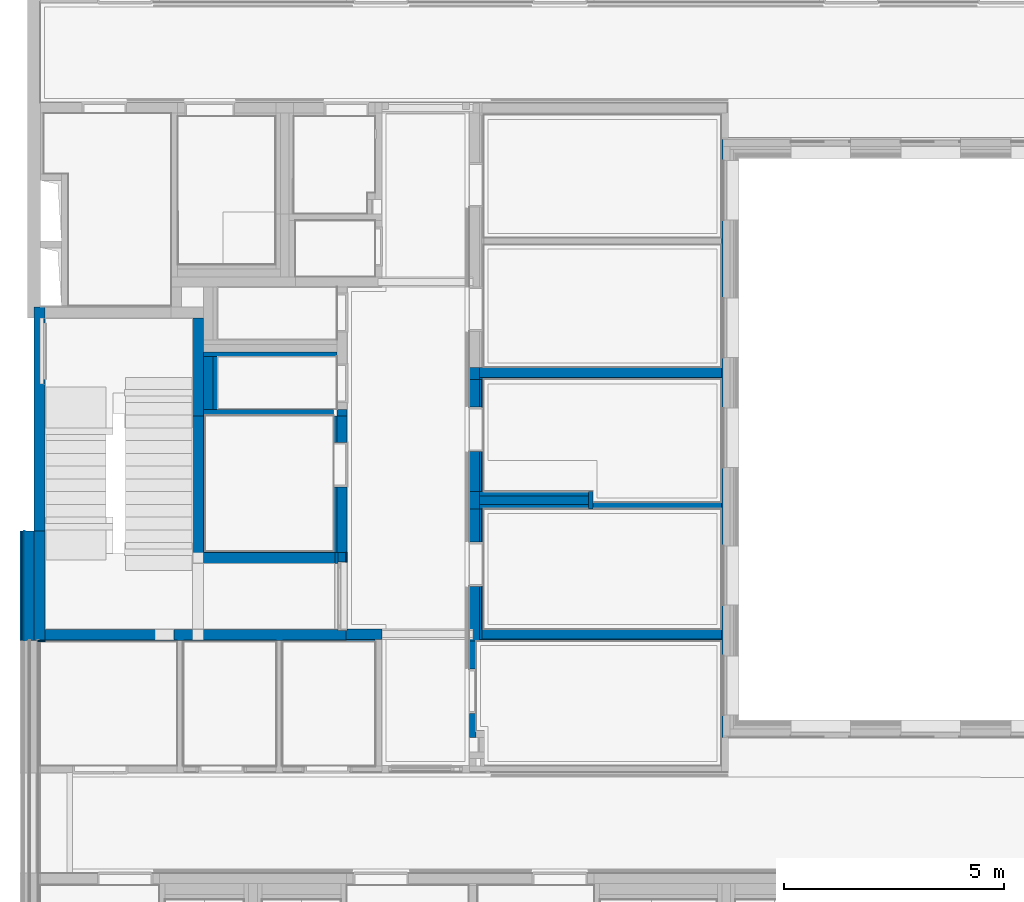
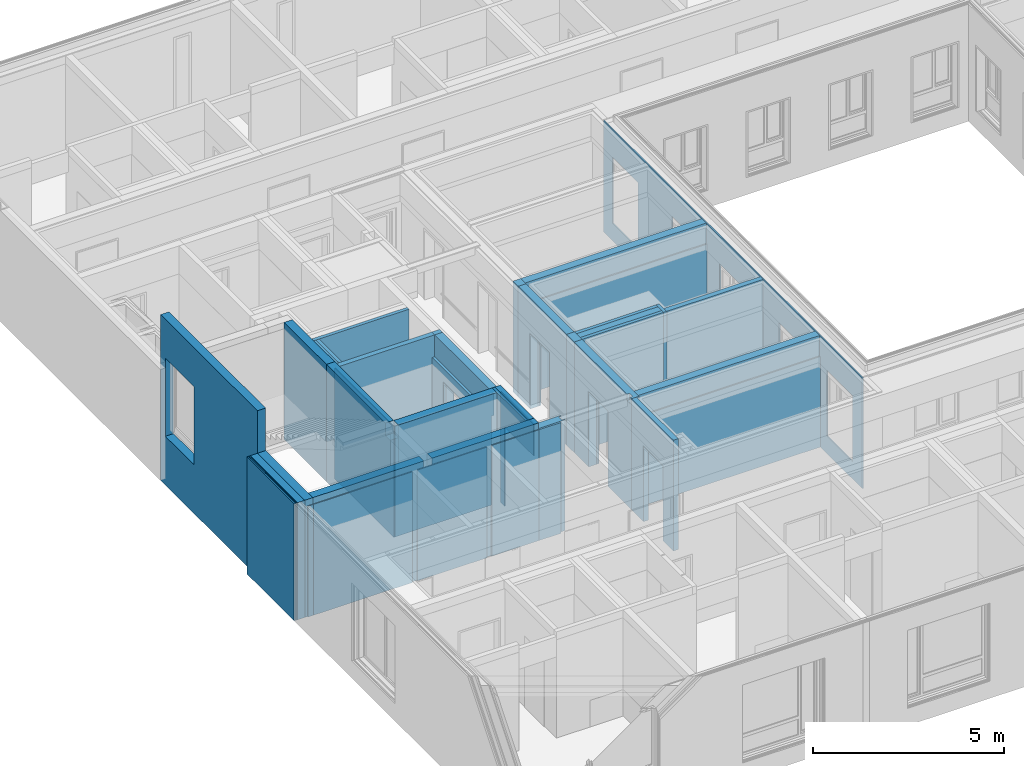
# One storey, part 14 of 222: 46 walls, 19 openings.
"""IFC4 building model written with IfcOpenShell, lengths in metres."""

import ifcopenshell
import ifcopenshell.guid

model = None  # the IFC model being written
_history = None  # IfcOwnerHistory: only IFC2X3 demands one
_inside = {}  # id of a spatial element -> (the spatial element, [elements in it])
_under = {}  # id of a project, library or spatial element -> (it, [spatial elements below it])
_declared = {}  # id of a project -> (the project, [libraries it declares])
_typed = {}  # id of a type object -> (the type object, [elements of that type])
_made_of = {}  # id of a material, layer set ... -> (it, [elements and type objects made of it])


def new_model(schema):
    """Start an empty IFC model of exactly this schema.

    Asked for "IFC4X3", IfcOpenShell would pick the latest addendum, in which some entities
    have other attributes; the version numbers below select the first issue.
    IFC2X3 requires an IfcOwnerHistory on every rooted entity: one is made here for all.
    """
    global model, _history
    if schema == "IFC4X3":
        model = ifcopenshell.file(schema_version=(4, 3, 0, 0))
    else:
        model = ifcopenshell.file(schema=schema)
    _inside.clear()
    _under.clear()
    _declared.clear()
    _typed.clear()
    _made_of.clear()
    _history = None
    if model.schema == "IFC2X3":
        org = make("IfcOrganization", Name="unknown")
        user = make(
            "IfcPersonAndOrganization",
            ThePerson=make("IfcPerson", FamilyName="unknown"),
            TheOrganization=org,
        )
        app = make(
            "IfcApplication",
            ApplicationDeveloper=org,
            Version="unknown",
            ApplicationFullName="unknown",
            ApplicationIdentifier="unknown",
        )
        _history = make(
            "IfcOwnerHistory",
            OwningUser=user,
            OwningApplication=app,
            ChangeAction="ADDED",
            CreationDate=0,
        )
    return model


def make(cls, **values):
    """One entity of the class cls with the attributes given. An attribute that is None is left unset."""
    return model.create_entity(
        cls, **{name: value for name, value in values.items() if value is not None}
    )


def entity(cls, *values):
    """Any entity or typed value of the class cls, its attributes in the order of the schema. None: left unset."""
    e = model.create_entity(cls)
    for i, value in enumerate(values):
        if value is not None:
            e[i] = value
    return e


def rooted(cls, **values):
    """An entity with a GlobalId (a new one), such as an element, a storey or a relation."""
    return make(cls, GlobalId=ifcopenshell.guid.new(), OwnerHistory=_history, **values)


def si_unit(unit_type, name, prefix=None):
    """IfcSIUnit, for example si_unit("LENGTHUNIT", "METRE", prefix="MILLI")."""
    return make("IfcSIUnit", UnitType=unit_type, Prefix=prefix, Name=name)


def converted_unit(unit_type, name, factor, base, dimensions=None, offset=None):
    """IfcConversionBasedUnit, such as the inch: factor (a typed value) times the base unit."""
    return make(
        "IfcConversionBasedUnit"
        if offset is None
        else "IfcConversionBasedUnitWithOffset",
        ConversionOffset=offset,
        Dimensions=None
        if dimensions is None
        else entity("IfcDimensionalExponents", *dimensions),
        UnitType=unit_type,
        Name=name,
        ConversionFactor=make(
            "IfcMeasureWithUnit", ValueComponent=factor, UnitComponent=base
        ),
    )


def derived_unit(unit_type, elements):
    """IfcDerivedUnit: a product of units, each with its exponent."""
    return make(
        "IfcDerivedUnit",
        Elements=[
            make("IfcDerivedUnitElement", Unit=unit, Exponent=power)
            for unit, power in elements
        ],
        UnitType=unit_type,
    )


def assignment(units):
    """IfcUnitAssignment: the units of a project."""
    return None if units is None else make("IfcUnitAssignment", Units=units)


def point(xyz):
    """IfcCartesianPoint."""
    return None if xyz is None else make("IfcCartesianPoint", Coordinates=xyz)


def direction(xyz):
    """IfcDirection."""
    return None if xyz is None else make("IfcDirection", DirectionRatios=xyz)


def frame(location, z_axis=None, x_axis=None):
    """IfcAxis2Placement3D, a coordinate frame: its origin and axes. An axis left out is left unset."""
    return make(
        "IfcAxis2Placement3D",
        Location=point(location),
        Axis=direction(z_axis),
        RefDirection=direction(x_axis),
    )


def frame_2d(location, x_axis=None):
    """IfcAxis2Placement2D, a coordinate frame in the plane: its origin and x axis."""
    return make(
        "IfcAxis2Placement2D", Location=point(location), RefDirection=direction(x_axis)
    )


def origin():
    """The frame at (0, 0, 0) with its axes left unset."""
    return frame((0.0, 0.0, 0.0))


def origin_with_axes():
    """The frame at (0, 0, 0) with the z axis (0, 0, 1) and the x axis (1, 0, 0) written out."""
    return frame((0.0, 0.0, 0.0), z_axis=(0.0, 0.0, 1.0), x_axis=(1.0, 0.0, 0.0))


def place(relative_to, where):
    """IfcLocalPlacement: puts the frame where relative to a parent placement (None: the world)."""
    return make(
        "IfcLocalPlacement", PlacementRelTo=relative_to, RelativePlacement=where
    )


def context(
    kind, dimensions, precision=None, world=None, true_north=None, identifier=None
):
    """IfcGeometricRepresentationContext, for example the 3D "Model" context."""
    return make(
        "IfcGeometricRepresentationContext",
        ContextIdentifier=identifier,
        ContextType=kind,
        CoordinateSpaceDimension=dimensions,
        Precision=precision,
        WorldCoordinateSystem=world,
        TrueNorth=true_north,
    )


def subcontext(parent, identifier, kind, view, scale=None):
    """IfcGeometricRepresentationSubContext, for example "Body" below "Model"."""
    return make(
        "IfcGeometricRepresentationSubContext",
        ContextIdentifier=identifier,
        ContextType=kind,
        ParentContext=parent,
        TargetScale=scale,
        TargetView=view,
    )


def project(units=None, contexts=None):
    """IfcProject with its units and contexts."""
    return rooted(
        "IfcProject",
        Name="project",
        RepresentationContexts=contexts,
        UnitsInContext=assignment(units),
    )


def spatial(cls, under=None, at=None, **own):
    """A site, building, storey or space (cls), placed at a placement, below another one or the project."""
    s = rooted(cls, ObjectPlacement=at, **own)
    if under is not None:
        _under.setdefault(under.id(), (under, []))[1].append(s)
    return s


def polyline(points):
    """IfcPolyline through the points."""
    return make("IfcPolyline", Points=[point(p) for p in points])


def profile(cls, at=None, kind="AREA", **sizes):
    """A parametric profile (cls). Its sizes go by their IFC names, for example OverallWidth=200.0."""
    return make(cls, ProfileType=kind, Position=at, **sizes)


def rectangle(**sizes):
    """IfcRectangleProfileDef."""
    return profile("IfcRectangleProfileDef", **sizes)


def outline(outer, holes=None, kind="AREA"):
    """IfcArbitraryClosedProfileDef: a profile drawn as a closed curve; with holes, ...WithVoids."""
    if holes is None:
        return make("IfcArbitraryClosedProfileDef", ProfileType=kind, OuterCurve=outer)
    return make(
        "IfcArbitraryProfileDefWithVoids",
        ProfileType=kind,
        OuterCurve=outer,
        InnerCurves=holes,
    )


def extrude(swept, where, along, depth):
    """IfcExtrudedAreaSolid: the profile swept, set in the frame where, extruded along a direction by depth."""
    return make(
        "IfcExtrudedAreaSolid",
        SweptArea=swept,
        Position=where,
        ExtrudedDirection=direction(along),
        Depth=depth,
    )


def clip(a, b, op="DIFFERENCE"):
    """IfcBooleanClippingResult: the solid a cut by the half space b."""
    return make(
        "IfcBooleanClippingResult", Operator=op, FirstOperand=a, SecondOperand=b
    )


def bounded_halfspace(plane, agree, where, boundary):
    """IfcPolygonalBoundedHalfSpace: a half space limited to a polygon's prism."""
    return make(
        "IfcPolygonalBoundedHalfSpace",
        BaseSurface=make("IfcPlane", Position=plane),
        AgreementFlag=agree,
        Position=where,
        PolygonalBoundary=boundary,
    )


def shape(context_of_items, identifier, shape_type, items):
    """IfcShapeRepresentation: the items that make up one representation, for example the "Body"."""
    return make(
        "IfcShapeRepresentation",
        ContextOfItems=context_of_items,
        RepresentationIdentifier=identifier,
        RepresentationType=shape_type,
        Items=items,
    )


def material(Name=None, Category=None):
    """IfcMaterial."""
    return make("IfcMaterial", Name=Name, Category=Category)


def made_of(thing, what):
    """Note that an element or type object is made of a material, layer set ...; save() writes the relation."""
    if what is not None:
        _made_of.setdefault(what.id(), (what, []))[1].append(thing)
    return thing


def element(
    cls,
    number,
    at=None,
    inside=None,
    cuts=None,
    type_object=None,
    material=None,
    context=None,
    identifier="Body",
    shape_type=None,
    held_by="IfcProductDefinitionShape",
    body=None,
    shapes=None,
    **own,
):
    """One element of the class cls, such as IfcWall. Its Tag is "e" and its number.

    at: its placement. inside: the storey or other place that contains it. cuts: it is an
    opening in that element (IfcRelVoidsElement). A single representation is given by context,
    identifier, shape_type and body (its items); several are given by shapes. held_by: the class
    of the entity that holds the representations. save() writes the other relations.
    """
    e = rooted(cls, Tag="e%d" % number, ObjectPlacement=at, **own)
    if body is not None:
        shapes = [shape(context, identifier, shape_type, body)]
    if shapes is not None:
        e.Representation = make(held_by, Representations=shapes)
    if inside is not None:
        _inside.setdefault(inside.id(), (inside, []))[1].append(e)
    if cuts is not None:
        rooted(
            "IfcRelVoidsElement", RelatingBuildingElement=cuts, RelatedOpeningElement=e
        )
    if type_object is not None:
        _typed.setdefault(type_object.id(), (type_object, []))[1].append(e)
    return made_of(e, material)


def aggregate(whole, parts):
    """IfcRelAggregates: a whole, such as a stair, and the parts it consists of."""
    return rooted("IfcRelAggregates", RelatingObject=whole, RelatedObjects=parts)


def save(model, path):
    """Write the relations noted so far, then the file.

    IfcRelAggregates (storeys below a building ...), IfcRelContainedInSpatialStructure (elements
    in a storey), IfcRelDefinesByType, IfcRelAssociatesMaterial and IfcRelDeclares: one each for
    every whole, place, type object, material and project.
    """
    for whole, parts in _under.values():
        aggregate(whole, parts)
    for where, things in _inside.values():
        rooted(
            "IfcRelContainedInSpatialStructure",
            RelatedElements=things,
            RelatingStructure=where,
        )
    for kind, things in _typed.values():
        rooted("IfcRelDefinesByType", RelatedObjects=things, RelatingType=kind)
    for what, things in _made_of.values():
        rooted("IfcRelAssociatesMaterial", RelatedObjects=things, RelatingMaterial=what)
    for by, libraries in _declared.values():
        rooted("IfcRelDeclares", RelatingContext=by, RelatedDefinitions=libraries)
    model.write(path)


model = new_model("IFC4")

# Units and contexts
model_context = context("Model", 3, precision=1e-05, world=origin())
body_context = subcontext(model_context, "Body", "Model", "MODEL_VIEW")
ifc_project = project(units=[si_unit("LENGTHUNIT", "METRE"), si_unit("AREAUNIT", "SQUARE_METRE"), si_unit("VOLUMEUNIT", "CUBIC_METRE"), si_unit("MASSUNIT", "GRAM", prefix="KILO"), converted_unit("PLANEANGLEUNIT", "DEGREE", entity("IfcPlaneAngleMeasure", 0.0174532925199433), si_unit("PLANEANGLEUNIT", "RADIAN"), dimensions=[0, 0, 0, 0, 0, 0, 0]), derived_unit("THERMALTRANSMITTANCEUNIT", [(si_unit("POWERUNIT", "WATT"), 1), (si_unit("THERMODYNAMICTEMPERATUREUNIT", "KELVIN"), -1), (si_unit("LENGTHUNIT", "METRE"), -2)]), derived_unit("VOLUMETRICFLOWRATEUNIT", [(si_unit("LENGTHUNIT", "METRE"), 3), (converted_unit("TIMEUNIT", "hour", entity("IfcTimeMeasure", 3600.0), si_unit("TIMEUNIT", "SECOND"), dimensions=[0, 0, 1, 0, 0, 0, 0]), -1), (si_unit("LENGTHUNIT", "METRE"), -1)])], contexts=[model_context])

# Site, building, storey
site_placement = place(None, origin())
site = spatial("IfcSite", under=ifc_project, at=site_placement, Name="Psychiatrie Neubau Wunstorf", CompositionType="ELEMENT")
building_placement = place(site_placement, origin())
building = spatial("IfcBuilding", under=site, at=building_placement, Name="Neubau H2 Stationsgebäude", CompositionType="ELEMENT")
storey_placement = place(building_placement, frame((0.0, 0.0, 3.6)))
storey = spatial("IfcBuildingStorey", under=building, at=storey_placement, Name="H2 Ebene +1", CompositionType="ELEMENT", Elevation=3.6)

# Wall, openings
ifc_material_1 = material(Name="WA-LB")
wall_1_placement = place(storey_placement, frame((15.639, 21.0016528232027, 0.0), z_axis=(0.0, 0.0, 1.0), x_axis=(-2.67741519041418e-16, -1.0, 0.0)))
wall_1 = element("IfcWall", 1, at=wall_1_placement, inside=storey, material=ifc_material_1, context=body_context, shape_type="SweptSolid", body=[
    extrude(rectangle(XDim=13.5876528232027, YDim=0.036, at=frame_2d((6.79382641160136, 0.018), x_axis=(1.0, 0.0))), origin_with_axes(), (0.0, 0.0, 1.0), 3.55),
])
opening_1_placement = place(wall_1_placement, frame((4.95165282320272, 0.0359999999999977, 0.55), z_axis=(0.0, -1.0, 0.0), x_axis=(0.0, 0.0, 1.0)))
element("IfcOpeningElement", 2, at=opening_1_placement, cuts=wall_1, Name="Fensteröffnung", ObjectType="Opening", context=body_context, shape_type="SweptSolid", body=[
    extrude(outline(polyline([(2.115, 1.35), (2.115, 0.0), (0.0, 0.0), (0.0, 1.35), (2.115, 1.35)])), origin_with_axes(), (0.0, 0.0, 1.0), 0.036),
])
opening_2_placement = place(wall_1_placement, frame((7.45165282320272, 0.0360000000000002, 0.55), z_axis=(0.0, -1.0, 0.0), x_axis=(0.0, 0.0, 1.0)))
element("IfcOpeningElement", 3, at=opening_2_placement, cuts=wall_1, Name="Fensteröffnung", ObjectType="Opening", context=body_context, shape_type="SweptSolid", body=[
    extrude(outline(polyline([(2.115, 1.35), (2.115, 0.0), (0.0, 0.0), (0.0, 1.35), (2.115, 1.35)])), origin_with_axes(), (0.0, 0.0, 1.0), 0.036),
])
opening_3_placement = place(wall_1_placement, frame((1.82665282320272, 0.0359999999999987, 0.55), z_axis=(0.0, -1.0, 0.0), x_axis=(0.0, 0.0, 1.0)))
element("IfcOpeningElement", 4, at=opening_3_placement, cuts=wall_1, Name="Fensteröffnung", ObjectType="Opening", context=body_context, shape_type="SweptSolid", body=[
    extrude(outline(polyline([(2.115, 1.35), (2.115, 0.0), (0.0, 0.0), (0.0, 1.35), (2.115, 1.35)])), origin_with_axes(), (0.0, 0.0, 1.0), 0.036),
])
opening_4_placement = place(wall_1_placement, frame((10.5766528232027, 0.036000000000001, 0.55), z_axis=(0.0, -1.0, 0.0), x_axis=(0.0, 0.0, 1.0)))
element("IfcOpeningElement", 5, at=opening_4_placement, cuts=wall_1, Name="Fensteröffnung", ObjectType="Opening", context=body_context, shape_type="SweptSolid", body=[
    extrude(outline(polyline([(2.115, 1.35), (2.115, 0.0), (0.0, 0.0), (0.0, 1.35), (2.115, 1.35)])), origin_with_axes(), (0.0, 0.0, 1.0), 0.036),
])
opening_5_placement = place(wall_1_placement, frame((13.0766528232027, 0.0359999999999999, 0.55), z_axis=(0.0, -1.0, 0.0), x_axis=(0.0, 0.0, 1.0)))
element("IfcOpeningElement", 6, at=opening_5_placement, cuts=wall_1, Name="Fensteröffnung", ObjectType="Opening", context=body_context, shape_type="SweptSolid", body=[
    extrude(outline(polyline([(2.115, 1.35), (2.115, 0.0), (0.0, 0.0), (0.0, 1.35), (2.115, 1.35)])), origin_with_axes(), (0.0, 0.0, 1.0), 0.036),
])

# Wall, opening
ifc_material_2 = material(Name="WI-STB")
wall_2_placement = place(storey_placement, frame((0.0300000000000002, 17.1949998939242, -0.2), z_axis=(0.0, 0.0, 1.0), x_axis=(0.0, -1.0, 0.0)))
wall_2 = element("IfcWall", 7, at=wall_2_placement, inside=storey, material=ifc_material_2, context=body_context, shape_type="SweptSolid", body=[
    extrude(rectangle(XDim=5.08475356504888, YDim=0.25, at=frame_2d((2.54237678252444, 0.125), x_axis=(1.0, 0.0))), origin_with_axes(), (0.0, 0.0, 1.0), 5.31),
])
opening_6_placement = place(wall_2_placement, frame((1.75000000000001, 0.25, 1.56), z_axis=(0.0, -1.0, 0.0), x_axis=(0.0, 0.0, 1.0)))
element("IfcOpeningElement", 8, at=opening_6_placement, cuts=wall_2, Name="Türöffnung", ObjectType="Opening", context=body_context, shape_type="SweptSolid", body=[
    extrude(outline(polyline([(2.5, 1.5), (2.5, 0.0), (0.0, 0.0), (0.0, 1.5), (2.5, 1.5)])), origin_with_axes(), (0.0, 0.0, 1.0), 0.25),
])

# Walls
ifc_material_3 = material(Name="WA-STB")
wall_3_placement = place(storey_placement, frame((0.279999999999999, 9.62499989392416, 0.0), z_axis=(0.0, 0.0, 1.0), x_axis=(0.0, 1.0, 0.0)))
element("IfcWall", 9, at=wall_3_placement, inside=storey, material=ifc_material_3, context=body_context, shape_type="SweptSolid", body=[
    extrude(rectangle(XDim=2.48524643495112, YDim=0.249999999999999, at=frame_2d((1.24262321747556, 0.125), x_axis=(1.0, 0.0))), origin_with_axes(), (0.0, 0.0, 1.0), 3.75),
])
ifc_material_4 = material(Name="WA-DL")
wall_4_placement = place(storey_placement, frame((0.0299999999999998, 9.62499989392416, 0.0), z_axis=(0.0, 0.0, 1.0), x_axis=(0.0, 1.0, 0.0)))
element("IfcWall", 10, at=wall_4_placement, inside=storey, material=ifc_material_4, context=body_context, shape_type="SweptSolid", body=[
    extrude(rectangle(XDim=2.48524643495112, YDim=0.22, at=frame_2d((1.24262321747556, 0.11), x_axis=(1.0, 0.0))), origin_with_axes(), (0.0, 0.0, 1.0), 3.75),
])
ifc_material_5 = material(Name="WA-LB")
wall_5_placement = place(storey_placement, frame((-0.19, 9.62499989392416, 0.0), z_axis=(0.0, 0.0, 1.0), x_axis=(0.0, 1.0, 0.0)))
element("IfcWall", 11, at=wall_5_placement, inside=storey, material=ifc_material_5, context=body_context, shape_type="SweptSolid", body=[
    extrude(rectangle(XDim=2.48524643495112, YDim=0.01, at=frame_2d((1.24262321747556, 0.005), x_axis=(1.0, 0.0))), origin_with_axes(), (0.0, 0.0, 1.0), 3.75),
])
ifc_material_6 = material(Name="WA-TL")
wall_6_placement = place(storey_placement, frame((-0.2, 9.62499989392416, 0.0), z_axis=(0.0, 0.0, 1.0), x_axis=(0.0, 1.0, 0.0)))
element("IfcWall", 12, at=wall_6_placement, inside=storey, material=ifc_material_6, context=body_context, shape_type="SweptSolid", body=[
    extrude(rectangle(XDim=2.48524643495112, YDim=0.025, at=frame_2d((1.24262321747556, 0.0125), x_axis=(1.0, 0.0))), origin_with_axes(), (0.0, 0.0, 1.0), 3.75),
])
ifc_material_7 = material(Name="WA-TL")
wall_7_placement = place(storey_placement, frame((-0.225, 9.62499989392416, 0.0), z_axis=(0.0, 0.0, 1.0), x_axis=(0.0, 1.0, 0.0)))
element("IfcWall", 13, at=wall_7_placement, inside=storey, material=ifc_material_7, Name="Traglattung", context=body_context, shape_type="SweptSolid", body=[
    extrude(rectangle(XDim=2.48524643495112, YDim=0.025, at=frame_2d((1.24262321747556, 0.0125), x_axis=(1.0, 0.0))), origin_with_axes(), (0.0, 0.0, 1.0), 3.75),
])
ifc_material_8 = material(Name="WA-HS")
wall_8_placement = place(storey_placement, frame((-0.25, 9.62499989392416, 0.0), z_axis=(0.0, 0.0, 1.0), x_axis=(0.0, 1.0, 0.0)))
element("IfcWall", 14, at=wall_8_placement, inside=storey, material=ifc_material_8, Name="Keramikschindel", context=body_context, shape_type="SweptSolid", body=[
    extrude(rectangle(XDim=2.48524643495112, YDim=0.042, at=frame_2d((1.24262321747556, 0.021), x_axis=(1.0, 0.0))), origin_with_axes(), (0.0, 0.0, 1.0), 3.75),
])
ifc_material_9 = material(Name="WI-LB")
wall_9_placement = place(storey_placement, frame((7.11099865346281, 9.59500306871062, 0.0)))
element("IfcWall", 15, at=wall_9_placement, inside=storey, material=ifc_material_9, context=body_context, shape_type="SweptSolid", body=[
    extrude(rectangle(XDim=0.664001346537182, YDim=0.055, at=frame_2d((0.332000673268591, 0.0275), x_axis=(1.0, 0.0))), origin_with_axes(), (0.0, 0.0, 1.0), 3.55),
])
ifc_material_10 = material(Name="WI-HW 60")
wall_10_placement = place(storey_placement, frame((7.11099855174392, 9.65000306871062, 0.0)))
element("IfcWall", 16, at=wall_10_placement, inside=storey, material=ifc_material_10, context=body_context, shape_type="Clipping", body=[
    clip(clip(extrude(rectangle(XDim=0.814001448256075, YDim=0.232, at=frame_2d((0.407000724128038, 0.116), x_axis=(1.0, 0.0))), origin_with_axes(), (0.0, 0.0, 1.0), 3.55), bounded_halfspace(frame((0.0150000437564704, 0.21349841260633, 2.53), z_axis=(0.0, 0.0, 1.0), x_axis=(0.0, 1.0, 0.0)), True, origin_with_axes(), polyline([(0.0300002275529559, 0.194996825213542), (0.0300002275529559, 0.232), (8.05538120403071e-08, 0.232), (-3.60633842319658e-07, 0.194996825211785), (0.0300002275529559, 0.194996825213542)]))), bounded_halfspace(frame((0.773253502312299, 0.116, 3.35), z_axis=(0.0, 0.0, -1.0), x_axis=(0.0, -1.0, 0.0)), True, origin_with_axes(), polyline([(0.732505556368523, 0.196), (0.732505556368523, 0.036), (0.814001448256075, 0.036), (0.814001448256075, 0.196), (0.732505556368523, 0.196)]))),
])

# Wall, opening
ifc_material_11 = material(Name="WI-LB")
wall_11_placement = place(storey_placement, frame((10.0675000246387, 7.41499989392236, 0.0), z_axis=(0.0, 0.0, 1.0), x_axis=(0.0, 1.0, 0.0)))
wall_11 = element("IfcWall", 17, at=wall_11_placement, inside=storey, material=ifc_material_11, context=body_context, shape_type="SweptSolid", body=[
    extrude(rectangle(XDim=2.1955000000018, YDim=0.15, at=frame_2d((1.0977500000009, 0.075), x_axis=(1.0, 0.0))), origin_with_axes(), (0.0, 0.0, 1.0), 3.55),
])
opening_7_placement = place(wall_11_placement, frame((1.56000000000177, 0.15, 0.0), z_axis=(0.0, -1.0, 0.0), x_axis=(0.0, 0.0, 1.0)))
element("IfcOpeningElement", 18, at=opening_7_placement, cuts=wall_11, Name="Türöffnung", ObjectType="Opening", context=body_context, shape_type="SweptSolid", body=[
    extrude(outline(polyline([(2.41, 1.01), (2.41, 0.0), (0.0, 0.0), (0.0, 1.01), (2.41, 1.01)])), origin_with_axes(), (0.0, 0.0, 1.0), 0.15),
])

# Wall
ifc_material_12 = material(Name="WI-LB")
wall_12_placement = place(storey_placement, frame((15.639, 12.761, 0.0), z_axis=(0.0, 0.0, 1.0), x_axis=(-1.0, 0.0, 0.0)))
element("IfcWall", 19, at=wall_12_placement, inside=storey, material=ifc_material_12, context=body_context, shape_type="SweptSolid", body=[
    extrude(rectangle(XDim=2.91999997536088, YDim=0.15, at=frame_2d((1.45999998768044, 0.075), x_axis=(1.0, 0.0))), origin_with_axes(), (0.0, 0.0, 1.0), 3.55),
])

# Wall, opening
ifc_material_13 = material(Name="WI-STB")
wall_13_placement = place(storey_placement, frame((6.86099923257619, 11.6249998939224, 0.0), z_axis=(0.0, 0.0, 1.0), x_axis=(0.0, -1.0, 0.0)))
wall_13 = element("IfcWall", 20, at=wall_13_placement, inside=storey, material=ifc_material_13, context=body_context, shape_type="SweptSolid", body=[
    extrude(rectangle(XDim=1.74999844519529, YDim=0.07, at=frame_2d((0.874999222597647, 0.035), x_axis=(1.0, 0.0))), origin_with_axes(), (0.0, 0.0, 1.0), 3.75),
])
opening_8_placement = place(wall_13_placement, frame((1.7499999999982, 0.07, 0.0), z_axis=(0.0, -1.0, 0.0), x_axis=(0.0, 0.0, 1.0)))
element("IfcOpeningElement", 21, at=opening_8_placement, cuts=wall_13, Name="Türöffnung", ObjectType="Opening", context=body_context, shape_type="SweptSolid", body=[
    extrude(outline(polyline([(2.5, 1.5), (2.5, 0.0), (0.0, 0.0), (0.0, 1.5), (2.5, 1.5)])), origin_with_axes(), (0.0, 0.0, 1.0), 0.07),
])

ifc_material_14 = material(Name="WI-STB")
wall_14_placement = place(storey_placement, frame((6.93099923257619, 11.6249998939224, 0.0), z_axis=(0.0, 0.0, 1.0), x_axis=(0.0, -1.0, 0.0)))
wall_14 = element("IfcWall", 22, at=wall_14_placement, inside=storey, material=ifc_material_14, context=body_context, shape_type="SweptSolid", body=[
    extrude(rectangle(XDim=1.74999844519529, YDim=0.179999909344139, at=frame_2d((0.874999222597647, 0.0899999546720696), x_axis=(1.0, 0.0))), origin_with_axes(), (0.0, 0.0, 1.0), 3.75),
])
opening_9_placement = place(wall_14_placement, frame((1.7799999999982, 0.179999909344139, 0.0), z_axis=(0.0, -1.0, 0.0), x_axis=(0.0, 0.0, 1.0)))
element("IfcOpeningElement", 23, at=opening_9_placement, cuts=wall_14, Name="Türöffnung", ObjectType="Opening", context=body_context, shape_type="SweptSolid", body=[
    extrude(outline(polyline([(2.53, 1.56), (2.53, 0.0), (0.0, 0.0), (0.0, 1.56), (2.53, 1.56)])), origin_with_axes(), (0.0, 0.0, 1.0), 0.179999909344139),
])

ifc_material_15 = material(Name="WI-LB")
wall_15_placement = place(storey_placement, frame((7.11099914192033, 11.6249914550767, 0.0), z_axis=(0.0, 0.0, 1.0), x_axis=(0.0, -1.0, 0.0)))
wall_15 = element("IfcWall", 24, at=wall_15_placement, inside=storey, material=ifc_material_15, context=body_context, shape_type="SweptSolid", body=[
    extrude(rectangle(XDim=1.74298838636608, YDim=0.0299996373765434, at=frame_2d((0.871494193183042, 0.0149998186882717), x_axis=(1.0, 0.0))), origin_with_axes(), (0.0, 0.0, 1.0), 3.55),
])
opening_10_placement = place(wall_15_placement, frame((1.77999156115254, 0.0299996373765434, 0.0), z_axis=(0.0, -1.0, 0.0), x_axis=(0.0, 0.0, 1.0)))
element("IfcOpeningElement", 25, at=opening_10_placement, cuts=wall_15, Name="Türöffnung", ObjectType="Opening", context=body_context, shape_type="SweptSolid", body=[
    extrude(outline(polyline([(2.53, 1.56), (2.53, 0.0), (0.0, 0.0), (0.0, 1.56), (2.53, 1.56)])), origin_with_axes(), (0.0, 0.0, 1.0), 0.0299996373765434),
])

# Wall
ifc_material_16 = material(Name="WI-HW 60")
wall_16_placement = place(storey_placement, frame((6.9089987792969, 14.8750132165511, 0.0), z_axis=(0.0, 0.0, 1.0), x_axis=(0.0, -1.0, 0.0)))
element("IfcWall", 26, at=wall_16_placement, inside=storey, material=ifc_material_16, context=body_context, shape_type="SweptSolid", body=[
    extrude(rectangle(XDim=0.15, YDim=0.232, at=frame_2d((0.075, 0.116), x_axis=(1.0, 0.0))), origin_with_axes(), (0.0, 0.0, 1.0), 3.55),
])

# Wall, opening
ifc_material_17 = material(Name="WI-LB")
wall_17_placement = place(storey_placement, frame((10.2390000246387, 9.88249989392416, 0.0), z_axis=(0.0, 0.0, 1.0), x_axis=(0.0, 1.0, 0.0)))
wall_17 = element("IfcWall", 27, at=wall_17_placement, inside=storey, material=ifc_material_17, context=body_context, shape_type="SweptSolid", body=[
    extrude(rectangle(XDim=2.72850010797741, YDim=0.0395, at=frame_2d((1.36425005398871, 0.01975), x_axis=(1.0, 0.0))), origin_with_axes(), (0.0, 0.0, 1.0), 2.9),
])
opening_11_placement = place(wall_17_placement, frame((1.97850010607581, 0.0395, 0.0), z_axis=(0.0, -1.0, 0.0), x_axis=(0.0, 0.0, 1.0)))
element("IfcOpeningElement", 28, at=opening_11_placement, cuts=wall_17, Name="Türöffnung", ObjectType="Opening", context=body_context, shape_type="SweptSolid", body=[
    extrude(outline(polyline([(2.41, 1.01), (2.41, 0.0), (0.0, 0.0), (0.0, 1.01), (2.41, 1.01)])), origin_with_axes(), (0.0, 0.0, 1.0), 0.0395),
])

ifc_material_18 = material(Name="Installationsraum")
wall_18_placement = place(storey_placement, frame((10.1995000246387, 9.65049989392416, 0.0), z_axis=(0.0, 0.0, 1.0), x_axis=(0.0, 1.0, 0.0)))
wall_18 = element("IfcWall", 29, at=wall_18_placement, inside=storey, material=ifc_material_18, context=body_context, shape_type="SweptSolid", body=[
    extrude(rectangle(XDim=2.96050010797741, YDim=0.05, at=frame_2d((1.48025005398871, 0.025), x_axis=(1.0, 0.0))), origin_with_axes(), (0.0, 0.0, 1.0), 2.9),
])
opening_12_placement = place(wall_18_placement, frame((2.21050010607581, 0.05, 0.0), z_axis=(0.0, -1.0, 0.0), x_axis=(0.0, 0.0, 1.0)))
element("IfcOpeningElement", 30, at=opening_12_placement, cuts=wall_18, Name="Türöffnung", ObjectType="Opening", context=body_context, shape_type="SweptSolid", body=[
    extrude(outline(polyline([(2.41, 1.01), (2.41, 0.0), (0.0, 0.0), (0.0, 1.01), (2.41, 1.01)])), origin_with_axes(), (0.0, 0.0, 1.0), 0.05),
])

ifc_material_19 = material(Name="WI-HW 60")
wall_19_placement = place(storey_placement, frame((10.1495000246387, 9.61049989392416, 0.0), z_axis=(0.0, 0.0, 1.0), x_axis=(0.0, 1.0, 0.0)))
wall_19 = element("IfcWall", 31, at=wall_19_placement, inside=storey, material=ifc_material_19, context=body_context, shape_type="Clipping", body=[
    clip(extrude(rectangle(XDim=3.00050010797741, YDim=0.232, at=frame_2d((1.50025005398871, 0.116), x_axis=(1.0, 0.0))), origin_with_axes(), (0.0, 0.0, 1.0), 3.55), bounded_halfspace(frame((0.155503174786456, 0.19399795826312, 3.35), z_axis=(0.0, 0.0, -1.0), x_axis=(-1.0, 0.0, 0.0)), True, origin_with_axes(), polyline([(0.235503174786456, 0.232), (0.0755031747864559, 0.232), (0.0755031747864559, 0.155995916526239), (0.235503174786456, 0.155995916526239), (0.235503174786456, 0.232)]))),
])
opening_13_placement = place(wall_19_placement, frame((2.25050010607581, 0.232, 0.0), z_axis=(0.0, -1.0, 0.0), x_axis=(0.0, 0.0, 1.0)))
element("IfcOpeningElement", 32, at=opening_13_placement, cuts=wall_19, Name="Türöffnung", ObjectType="Opening", context=body_context, shape_type="SweptSolid", body=[
    extrude(outline(polyline([(2.41, 1.01), (2.41, 0.0), (0.0, 0.0), (0.0, 1.01), (2.41, 1.01)])), origin_with_axes(), (0.0, 0.0, 1.0), 0.232),
])

# Walls
ifc_material_20 = material(Name="WI-HW 60")
wall_20_placement = place(storey_placement, frame((9.91750002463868, 13.0110000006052, 0.0), z_axis=(0.0, 0.0, 1.0), x_axis=(0.0, -1.0, 0.0)))
element("IfcWall", 33, at=wall_20_placement, inside=storey, material=ifc_material_20, context=body_context, shape_type="SweptSolid", body=[
    extrude(rectangle(XDim=0.399999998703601, YDim=0.232, at=frame_2d((0.1999999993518, 0.116), x_axis=(1.0, 0.0))), origin_with_axes(), (0.0, 0.0, 1.0), 3.55),
])
ifc_material_21 = material(Name="WI-HW 60")
wall_21_placement = place(storey_placement, frame((15.639, 15.8255, 0.0), z_axis=(0.0, 0.0, 1.0), x_axis=(-1.0, 0.0, 0.0)))
element("IfcWall", 34, at=wall_21_placement, inside=storey, material=ifc_material_21, context=body_context, shape_type="SweptSolid", body=[
    extrude(rectangle(XDim=5.48949997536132, YDim=0.232, at=frame_2d((2.74474998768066, 0.116), x_axis=(1.0, 0.0))), origin_with_axes(), (0.0, 0.0, 1.0), 3.55),
])
ifc_material_22 = material(Name="WI-LB")
wall_22_placement = place(storey_placement, frame((15.639, 15.5935, 0.0), z_axis=(0.0, 0.0, 1.0), x_axis=(-1.0, 0.0, 0.0)))
element("IfcWall", 35, at=wall_22_placement, inside=storey, material=ifc_material_22, context=body_context, shape_type="SweptSolid", body=[
    extrude(rectangle(XDim=5.48949997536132, YDim=0.04, at=frame_2d((2.74474998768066, 0.02), x_axis=(1.0, 0.0))), origin_with_axes(), (0.0, 0.0, 1.0), 2.9),
])
ifc_material_23 = material(Name="WI-HW 60")
wall_23_placement = place(storey_placement, frame((9.91750002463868, 15.8255, 0.0), z_axis=(0.0, 0.0, 1.0), x_axis=(0.0, -1.0, 0.0)))
element("IfcWall", 36, at=wall_23_placement, inside=storey, material=ifc_material_23, context=body_context, shape_type="SweptSolid", body=[
    extrude(rectangle(XDim=0.272, YDim=0.232, at=frame_2d((0.136, 0.116), x_axis=(1.0, 0.0))), origin_with_axes(), (0.0, 0.0, 1.0), 3.55),
])
ifc_material_24 = material(Name="WI-HW 60")
wall_24_placement = place(storey_placement, frame((15.639, 9.88249989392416, 0.0), z_axis=(0.0, 0.0, 1.0), x_axis=(-1.0, 0.0, 0.0)))
element("IfcWall", 37, at=wall_24_placement, inside=storey, material=ifc_material_24, context=body_context, shape_type="SweptSolid", body=[
    extrude(rectangle(XDim=5.48949997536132, YDim=0.232, at=frame_2d((2.74474998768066, 0.116), x_axis=(1.0, 0.0))), origin_with_axes(), (0.0, 0.0, 1.0), 3.55),
])
ifc_material_25 = material(Name="WI-LB")
wall_25_placement = place(storey_placement, frame((15.639, 9.65049989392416, 0.0), z_axis=(0.0, 0.0, 1.0), x_axis=(-1.0, 0.0, 0.0)))
element("IfcWall", 38, at=wall_25_placement, inside=storey, material=ifc_material_25, context=body_context, shape_type="SweptSolid", body=[
    extrude(rectangle(XDim=5.48949997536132, YDim=0.04, at=frame_2d((2.74474998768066, 0.02), x_axis=(1.0, 0.0))), origin_with_axes(), (0.0, 0.0, 1.0), 2.9),
])
ifc_material_26 = material(Name="WI-IW")
wall_26_placement = place(storey_placement, frame((12.6190000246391, 13.0109999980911, 0.0), z_axis=(0.0, 0.0, 1.0), x_axis=(0.0, -1.0, 0.0)))
element("IfcWall", 39, at=wall_26_placement, inside=storey, material=ifc_material_26, context=body_context, shape_type="SweptSolid", body=[
    extrude(rectangle(XDim=0.399999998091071, YDim=0.1, at=frame_2d((0.199999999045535, 0.05), x_axis=(1.0, 0.0))), origin_with_axes(), (0.0, 0.0, 1.0), 3.55),
])

# Wall, opening
ifc_material_27 = material(Name="WI-LB")
wall_27_placement = place(storey_placement, frame((10.2390000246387, 13.0110000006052, 0.0), z_axis=(0.0, 0.0, 1.0), x_axis=(0.0, 1.0, 0.0)))
wall_27 = element("IfcWall", 40, at=wall_27_placement, inside=storey, material=ifc_material_27, context=body_context, shape_type="SweptSolid", body=[
    extrude(rectangle(XDim=2.54249999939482, YDim=0.0395, at=frame_2d((1.27124999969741, 0.01975), x_axis=(1.0, 0.0))), origin_with_axes(), (0.0, 0.0, 1.0), 2.9),
])
opening_14_placement = place(wall_27_placement, frame((1.91399989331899, 0.0395, 0.0), z_axis=(0.0, -1.0, 0.0), x_axis=(0.0, 0.0, 1.0)))
element("IfcOpeningElement", 41, at=opening_14_placement, cuts=wall_27, Name="Türöffnung", ObjectType="Opening", context=body_context, shape_type="SweptSolid", body=[
    extrude(outline(polyline([(2.41, 1.01), (2.41, 0.0), (0.0, 0.0), (0.0, 1.01), (2.41, 1.01)])), origin_with_axes(), (0.0, 0.0, 1.0), 0.0395),
])

ifc_material_28 = material(Name="Installationsraum")
wall_28_placement = place(storey_placement, frame((10.1995000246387, 13.0110000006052, 0.0), z_axis=(0.0, 0.0, 1.0), x_axis=(0.0, 1.0, 0.0)))
wall_28 = element("IfcWall", 42, at=wall_28_placement, inside=storey, material=ifc_material_28, context=body_context, shape_type="SweptSolid", body=[
    extrude(rectangle(XDim=2.54249999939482, YDim=0.05, at=frame_2d((1.27124999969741, 0.025), x_axis=(1.0, 0.0))), origin_with_axes(), (0.0, 0.0, 1.0), 2.9),
])
opening_15_placement = place(wall_28_placement, frame((1.91399989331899, 0.05, 0.0), z_axis=(0.0, -1.0, 0.0), x_axis=(0.0, 0.0, 1.0)))
element("IfcOpeningElement", 43, at=opening_15_placement, cuts=wall_28, Name="Türöffnung", ObjectType="Opening", context=body_context, shape_type="SweptSolid", body=[
    extrude(outline(polyline([(2.41, 1.01), (2.41, 0.0), (0.0, 0.0), (0.0, 1.01), (2.41, 1.01)])), origin_with_axes(), (0.0, 0.0, 1.0), 0.05),
])

ifc_material_29 = material(Name="WI-HW 60")
wall_29_placement = place(storey_placement, frame((10.1495000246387, 13.0110000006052, 0.0), z_axis=(0.0, 0.0, 1.0), x_axis=(0.0, 1.0, 0.0)))
wall_29 = element("IfcWall", 44, at=wall_29_placement, inside=storey, material=ifc_material_29, context=body_context, shape_type="SweptSolid", body=[
    extrude(rectangle(XDim=2.54249999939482, YDim=0.232, at=frame_2d((1.27124999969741, 0.116), x_axis=(1.0, 0.0))), origin_with_axes(), (0.0, 0.0, 1.0), 3.55),
])
opening_16_placement = place(wall_29_placement, frame((1.91399989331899, 0.232, 0.0), z_axis=(0.0, -1.0, 0.0), x_axis=(0.0, 0.0, 1.0)))
element("IfcOpeningElement", 45, at=opening_16_placement, cuts=wall_29, Name="Türöffnung", ObjectType="Opening", context=body_context, shape_type="SweptSolid", body=[
    extrude(outline(polyline([(2.41, 1.01), (2.41, 0.0), (0.0, 0.0), (0.0, 1.01), (2.41, 1.01)])), origin_with_axes(), (0.0, 0.0, 1.0), 0.232),
])

# Walls
ifc_material_30 = material(Name="WI-LB")
wall_30_placement = place(storey_placement, frame((6.9089987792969, 14.8750132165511, 0.0), z_axis=(0.0, 0.0, 1.0), x_axis=(-1.0, 0.0, 0.0)))
element("IfcWall", 46, at=wall_30_placement, inside=storey, material=ifc_material_30, context=body_context, shape_type="Clipping", body=[
    clip(extrude(rectangle(XDim=3.0289987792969, YDim=0.15, at=frame_2d((1.51449938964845, 0.075), x_axis=(1.0, 0.0))), origin_with_axes(), (0.0, 0.0, 1.0), 3.55), bounded_halfspace(frame((0.0375, 0.075, 2.85), z_axis=(0.0, 0.0, 1.0), x_axis=(0.0, 1.0, 0.0)), True, origin_with_axes(), polyline([(0.075, 0.0), (0.075, 0.15), (0.0, 0.15), (0.0, 0.0), (0.075, 0.0)]))),
])
ifc_material_31 = material(Name="WI-VS")
wall_31_placement = place(storey_placement, frame((3.88, 16.0770132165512, 0.0)))
element("IfcWall", 47, at=wall_31_placement, inside=storey, material=ifc_material_31, context=body_context, shape_type="SweptSolid", body=[
    extrude(rectangle(XDim=3.0289987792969, YDim=0.0999999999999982, at=frame_2d((1.51449938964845, 0.0499999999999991), x_axis=(1.0, 0.0))), origin_with_axes(), (0.0, 0.0, 1.0), 3.55),
])
ifc_material_32 = material(Name="Installationsraum")
wall_32_placement = place(storey_placement, frame((3.88, 16.0770132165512, 0.0), z_axis=(0.0, 0.0, 1.0), x_axis=(0.0, -1.0, 0.0)))
element("IfcWall", 48, at=wall_32_placement, inside=storey, material=ifc_material_32, context=body_context, shape_type="SweptSolid", body=[
    extrude(rectangle(XDim=1.20200000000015, YDim=0.21, at=frame_2d((0.601000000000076, 0.105), x_axis=(1.0, 0.0))), origin_with_axes(), (0.0, 0.0, 1.0), 3.55),
])
ifc_material_33 = material(Name="WI-VS")
wall_33_placement = place(storey_placement, frame((4.09, 16.0770132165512, 0.0), z_axis=(0.0, 0.0, 1.0), x_axis=(0.0, -1.0, 0.0)))
element("IfcWall", 49, at=wall_33_placement, inside=storey, material=ifc_material_33, context=body_context, shape_type="SweptSolid", body=[
    extrude(rectangle(XDim=1.20200000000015, YDim=0.0999999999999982, at=frame_2d((0.601000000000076, 0.0499999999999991), x_axis=(1.0, 0.0))), origin_with_axes(), (0.0, 0.0, 1.0), 3.55),
])
ifc_material_34 = material(Name="WI-IW")
wall_34_placement = place(storey_placement, frame((10.1495000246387, 12.6110000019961, 0.0), z_axis=(0.0, 0.0, 1.0), x_axis=(1.0, -1.05634633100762e-09, 0.0)))
element("IfcWall", 50, at=wall_34_placement, inside=storey, material=ifc_material_34, context=body_context, shape_type="SweptSolid", body=[
    extrude(rectangle(XDim=2.46950000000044, YDim=0.1, at=frame_2d((1.23475000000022, 0.05), x_axis=(1.0, 0.0))), origin_with_axes(), (0.0, 0.0, 1.0), 3.55),
])
ifc_material_35 = material(Name="Installationsraum")
wall_35_placement = place(storey_placement, frame((10.1495000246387, 12.7110000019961, 0.0), z_axis=(0.0, 0.0, 1.0), x_axis=(1.0, -1.05634633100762e-09, 0.0)))
element("IfcWall", 51, at=wall_35_placement, inside=storey, material=ifc_material_35, context=body_context, shape_type="SweptSolid", body=[
    extrude(rectangle(XDim=2.46950000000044, YDim=0.199999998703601, at=frame_2d((1.23475000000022, 0.0999999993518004), x_axis=(1.0, 0.0))), origin_with_axes(), (0.0, 0.0, 1.0), 3.55),
])
ifc_material_36 = material(Name="WI-IW")
wall_36_placement = place(storey_placement, frame((10.1495000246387, 12.9110000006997, 0.0), z_axis=(0.0, 0.0, 1.0), x_axis=(1.0, -1.05634633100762e-09, 0.0)))
element("IfcWall", 52, at=wall_36_placement, inside=storey, material=ifc_material_36, context=body_context, shape_type="SweptSolid", body=[
    extrude(rectangle(XDim=2.46950000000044, YDim=0.1, at=frame_2d((1.23475000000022, 0.05), x_axis=(1.0, 0.0))), origin_with_axes(), (0.0, 0.0, 1.0), 3.55),
])
ifc_material_37 = material(Name="WI-LB")
wall_37_placement = place(storey_placement, frame((0.111, 9.59499989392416, 0.0)))
element("IfcWall", 53, at=wall_37_placement, inside=storey, material=ifc_material_37, context=body_context, shape_type="SweptSolid", body=[
    extrude(rectangle(XDim=0.168999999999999, YDim=0.0299996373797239, at=frame_2d((0.0844999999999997, 0.014999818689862), x_axis=(1.0, 0.0))), origin_with_axes(), (0.0, 0.0, 1.0), 3.55),
])

# Wall, opening
ifc_material_38 = material(Name="WI-LB")
wall_38_placement = place(storey_placement, frame((6.8339987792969, 14.7250132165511, 0.0), z_axis=(0.0, 0.0, 1.0), x_axis=(-2.93383328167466e-16, -1.0, 0.0)))
wall_38 = element("IfcWall", 54, at=wall_38_placement, inside=storey, material=ifc_material_38, context=body_context, shape_type="SweptSolid", body=[
    extrude(rectangle(XDim=3.10002176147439, YDim=0.075, at=frame_2d((1.5500108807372, 0.0375), x_axis=(1.0, 0.0))), origin_with_axes(), (0.0, 0.0, 1.0), 2.85),
])
opening_17_placement = place(wall_38_placement, frame((1.61001332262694, 0.0750000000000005, 0.0), z_axis=(0.0, -1.0, 0.0), x_axis=(0.0, 0.0, 1.0)))
element("IfcOpeningElement", 55, at=opening_17_placement, cuts=wall_38, Name="Türöffnung", ObjectType="Opening", context=body_context, shape_type="SweptSolid", body=[
    extrude(outline(polyline([(2.41, 1.01), (2.41, 0.0), (0.0, 0.0), (0.0, 1.01), (2.41, 1.01)])), origin_with_axes(), (0.0, 0.0, 1.0), 0.075),
])

ifc_material_39 = material(Name="WI-HW 60")
wall_39_placement = place(storey_placement, frame((6.9089987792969, 14.7250132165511, 0.0), z_axis=(0.0, 0.0, 1.0), x_axis=(-2.93383328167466e-16, -1.0, 0.0)))
wall_39 = element("IfcWall", 56, at=wall_39_placement, inside=storey, material=ifc_material_39, context=body_context, shape_type="SweptSolid", body=[
    extrude(rectangle(XDim=3.10002176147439, YDim=0.232, at=frame_2d((1.5500108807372, 0.116), x_axis=(1.0, 0.0))), origin_with_axes(), (0.0, 0.0, 1.0), 3.55),
])
opening_18_placement = place(wall_39_placement, frame((1.61001332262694, 0.232, 0.0), z_axis=(0.0, -1.0, 0.0), x_axis=(0.0, 0.0, 1.0)))
element("IfcOpeningElement", 57, at=opening_18_placement, cuts=wall_39, Name="Türöffnung", ObjectType="Opening", context=body_context, shape_type="SweptSolid", body=[
    extrude(outline(polyline([(2.41, 1.01), (2.41, 0.0), (0.0, 0.0), (0.0, 1.01), (2.41, 1.01)])), origin_with_axes(), (0.0, 0.0, 1.0), 0.232),
])

# Wall
ifc_material_40 = material(Name="WI-STB")
wall_40_placement = place(storey_placement, frame((3.63, 16.9449998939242, 0.0), z_axis=(0.0, 0.0, 1.0), x_axis=(0.0, -1.0, 0.0)))
element("IfcWall", 58, at=wall_40_placement, inside=storey, material=ifc_material_40, context=body_context, shape_type="SweptSolid", body=[
    extrude(rectangle(XDim=2.21998667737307, YDim=0.25, at=frame_2d((1.10999333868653, 0.125), x_axis=(1.0, 0.0))), origin_with_axes(), (0.0, 0.0, 1.0), 3.75),
])

# Wall, opening
ifc_material_41 = material(Name="WI-STB")
wall_41_placement = place(storey_placement, frame((7.11099813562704, 9.87499989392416, 0.0), z_axis=(0.0, 0.0, 1.0), x_axis=(-1.0, 0.0, 0.0)))
wall_41 = element("IfcWall", 59, at=wall_41_placement, inside=storey, material=ifc_material_41, context=body_context, shape_type="Clipping", body=[
    clip(clip(extrude(rectangle(XDim=6.83099813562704, YDim=0.25, at=frame_2d((3.41549906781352, 0.125), x_axis=(1.0, 0.0))), origin_with_axes(), (0.0, 0.0, 1.0), 3.75), bounded_halfspace(frame((0.0899994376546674, 0.015, 2.53), z_axis=(0.0, 0.0, 1.0), x_axis=(1.84943443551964e-06, -0.99999999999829, 0.0)), True, origin_with_axes(), polyline([(-5.54830330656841e-08, 0.03), (0.0, 0.0), (0.17999890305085, 0.0), (0.17999890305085, 0.03), (-5.54830330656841e-08, 0.03)]))), bounded_halfspace(frame((3.35599813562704, 0.125, 3.35), z_axis=(0.0, 0.0, -1.0), x_axis=(-1.0, 0.0, 0.0)), True, origin_with_axes(), polyline([(3.48099813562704, 0.25), (3.23099813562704, 0.25), (3.23099813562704, 0.0), (3.48099813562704, 0.0), (3.48099813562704, 0.25)]))),
])
opening_19_placement = place(wall_41_placement, frame((3.91099813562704, 0.0, 0.35), z_axis=(0.0, 1.0, 0.0), x_axis=(0.0, 0.0, 1.0)))
element("IfcOpeningElement", 60, at=opening_19_placement, cuts=wall_41, Name="Wandnische", ObjectType="Opening", context=body_context, shape_type="SweptSolid", body=[
    extrude(outline(polyline([(1.12, 0.42), (1.12, 0.0), (0.0, 0.0), (0.0, 0.42), (1.12, 0.42)])), origin_with_axes(), (0.0, 0.0, 1.0), 0.25),
])

# Walls
ifc_material_42 = material(Name="WI-LB")
wall_42_placement = place(storey_placement, frame((7.11099859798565, 9.62499989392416, 0.0), z_axis=(0.0, 0.0, 1.0), x_axis=(-1.0, 0.0, 0.0)))
element("IfcWall", 61, at=wall_42_placement, inside=storey, material=ifc_material_42, context=body_context, shape_type="SweptSolid", body=[
    extrude(rectangle(XDim=2.995, YDim=0.0299996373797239, at=frame_2d((1.4975, 0.014999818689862), x_axis=(1.0, 0.0))), frame((3.83599859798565, 0.0, 0.0), z_axis=(0.0, 0.0, 1.0), x_axis=(1.0, 0.0, 0.0)), (0.0, 0.0, 1.0), 3.55),
    extrude(rectangle(XDim=0.0299996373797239, YDim=2.1, at=frame_2d((1.05, -0.014999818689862), x_axis=(0.0, -1.0))), frame((1.58599859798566, 0.0299996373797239, 0.0), z_axis=(0.0, 0.0, 1.0), x_axis=(1.0, 0.0, 0.0)), (0.0, 0.0, 1.0), 3.55),
    extrude(rectangle(XDim=1.43599859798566, YDim=0.0299996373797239, at=frame_2d((0.717999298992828, 0.014999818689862), x_axis=(1.0, 0.0))), origin_with_axes(), (0.0, 0.0, 1.0), 3.55),
])
ifc_material_43 = material(Name="WI-LB")
wall_43_placement = place(storey_placement, frame((6.9089987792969, 11.6549995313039, 0.0), z_axis=(0.0, 0.0, 1.0), x_axis=(-1.0, 0.0, 0.0)))
element("IfcWall", 62, at=wall_43_placement, inside=storey, material=ifc_material_43, context=body_context, shape_type="Clipping", body=[
    clip(extrude(rectangle(XDim=2.99899914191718, YDim=0.0299996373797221, at=frame_2d((1.49949957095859, 0.0149998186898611), x_axis=(1.0, 0.0))), origin_with_axes(), (0.0, 0.0, 1.0), 3.55), bounded_halfspace(frame((0.0375000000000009, 0.0149998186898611, 2.85), z_axis=(0.0, 0.0, 1.0), x_axis=(1.0, 0.0, 0.0)), True, origin_with_axes(), polyline([(0.0, 0.0), (0.0750000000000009, 0.0), (0.0750000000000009, 0.0299996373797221), (0.0, 0.0299996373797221), (0.0, 0.0)]))),
])
ifc_material_44 = material(Name="WI-STB")
wall_44_placement = place(storey_placement, frame((6.93099508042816, 11.6249998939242, 0.0), z_axis=(0.0, 0.0, 1.0), x_axis=(-1.0, 0.0, 0.0)))
element("IfcWall", 63, at=wall_44_placement, inside=storey, material=ifc_material_44, context=body_context, shape_type="SweptSolid", body=[
    extrude(rectangle(XDim=3.05099508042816, YDim=0.25, at=frame_2d((1.52549754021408, 0.125), x_axis=(1.0, 0.0))), origin_with_axes(), (0.0, 0.0, 1.0), 3.75),
])
ifc_material_45 = material(Name="WI-STB")
wall_45_placement = place(storey_placement, frame((3.63, 14.7250132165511, 0.0), z_axis=(0.0, 0.0, 1.0), x_axis=(0.0, -1.0, 0.0)))
element("IfcWall", 64, at=wall_45_placement, inside=storey, material=ifc_material_45, context=body_context, shape_type="Clipping", body=[
    clip(extrude(rectangle(XDim=3.35001332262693, YDim=0.25, at=frame_2d((1.67500666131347, 0.125), x_axis=(1.0, 0.0))), origin_with_axes(), (0.0, 0.0, 1.0), 3.75), bounded_halfspace(frame((3.22501332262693, 0.125, 3.35), z_axis=(0.0, 0.0, -1.0), x_axis=(0.0, 1.0, 0.0)), True, origin_with_axes(), polyline([(3.35001332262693, 0.0), (3.35001332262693, 0.25), (3.10001332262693, 0.25), (3.10001332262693, 0.0), (3.35001332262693, 0.0)]))),
])
ifc_material_46 = material(Name="WI-LB")
wall_46_placement = place(storey_placement, frame((3.88, 14.7250132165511, 0.0), z_axis=(0.0, 0.0, 1.0), x_axis=(0.0, -1.0, 0.0)))
element("IfcWall", 65, at=wall_46_placement, inside=storey, material=ifc_material_46, context=body_context, shape_type="SweptSolid", body=[
    extrude(rectangle(XDim=3.10001332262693, YDim=0.0299996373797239, at=frame_2d((1.55000666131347, 0.014999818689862), x_axis=(1.0, 0.0))), origin_with_axes(), (0.0, 0.0, 1.0), 3.55),
])

save(model, "model.ifc")
